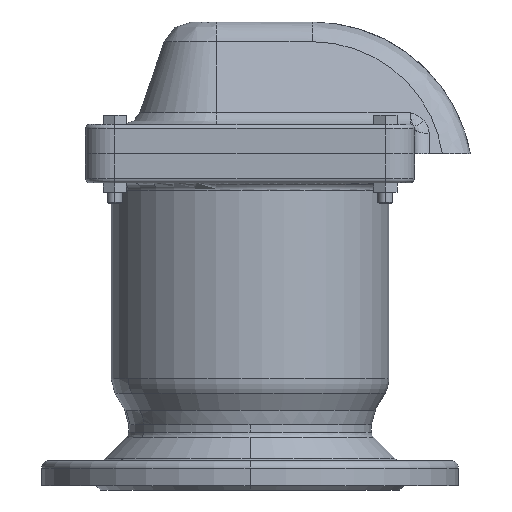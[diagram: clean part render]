
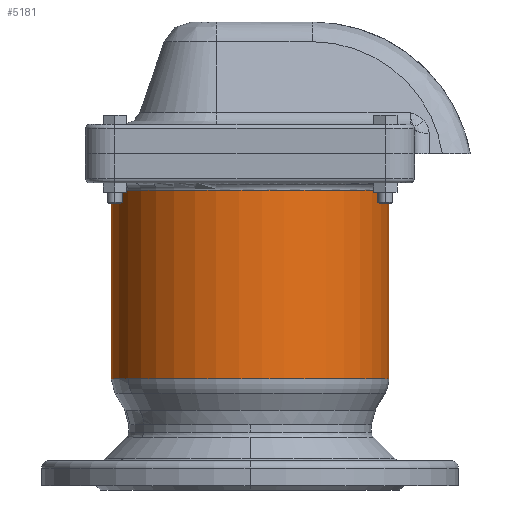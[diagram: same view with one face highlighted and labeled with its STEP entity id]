
A CAD part, left-side view. The second image highlights one B-rep face of the part: STEP entity #5181.
In plain terms, the highlighted cylindrical face has radius 95 mm (diameter 190 mm), a partial arc.
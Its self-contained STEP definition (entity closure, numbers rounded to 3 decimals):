
#961 = CARTESIAN_POINT ( 'NONE',  ( -45.545, 83.37, 76.144 ) ) ;
#1124 = ORIENTED_EDGE ( 'NONE', *, *, #15355, .F. ) ;
#1238 = EDGE_CURVE ( 'NONE', #2937, #16720, #6144, .T. ) ;
#1359 = EDGE_LOOP ( 'NONE', ( #6314, #1124, #14561, #16504, #16245, #9439 ) ) ;
#1471 = DIRECTION ( 'NONE',  ( 1., 0., 0. ) ) ;
#1669 = DIRECTION ( 'NONE',  ( 0., -1., 0. ) ) ;
#1975 = CARTESIAN_POINT ( 'NONE',  ( 0., -95., 76.144 ) ) ;
#2004 = AXIS2_PLACEMENT_3D ( 'NONE', #13319, #8307, #18785 ) ;
#2258 = CIRCLE ( 'NONE', #5261, 95. ) ;
#2321 = LINE ( 'NONE', #10535, #13799 ) ;
#2394 = AXIS2_PLACEMENT_3D ( 'NONE', #19383, #10400, #1471 ) ;
#2937 = VERTEX_POINT ( 'NONE', #13663 ) ;
#3714 = VECTOR ( 'NONE', #6486, 1000. ) ;
#3743 = FACE_OUTER_BOUND ( 'NONE', #1359, .T. ) ;
#3788 = VERTEX_POINT ( 'NONE', #6775 ) ;
#3990 = CARTESIAN_POINT ( 'NONE',  ( 0., 0., 205. ) ) ;
#4498 = EDGE_CURVE ( 'NONE', #9737, #2937, #6327, .T. ) ;
#4988 = CARTESIAN_POINT ( 'NONE',  ( 0., -95., 76.144 ) ) ;
#5181 = ADVANCED_FACE ( 'NONE', ( #3743 ), #15219, .T. ) ;
#5261 = AXIS2_PLACEMENT_3D ( 'NONE', #14493, #5504, #15982 ) ;
#5465 = DIRECTION ( 'NONE',  ( 1., 0., 0. ) ) ;
#5504 = DIRECTION ( 'NONE',  ( 0., 0., -1. ) ) ;
#6144 = CIRCLE ( 'NONE', #2004, 95. ) ;
#6314 = ORIENTED_EDGE ( 'NONE', *, *, #7581, .F. ) ;
#6327 = CIRCLE ( 'NONE', #11797, 95. ) ;
#6486 = DIRECTION ( 'NONE',  ( 0., 0., 1. ) ) ;
#6735 = CARTESIAN_POINT ( 'NONE',  ( 0., -95., 205. ) ) ;
#6775 = CARTESIAN_POINT ( 'NONE',  ( 0., 95., 76.144 ) ) ;
#7449 = CARTESIAN_POINT ( 'NONE',  ( 0., 95., 205. ) ) ;
#7581 = EDGE_CURVE ( 'NONE', #3788, #9737, #2321, .T. ) ;
#7687 = LINE ( 'NONE', #4988, #3714 ) ;
#8307 = DIRECTION ( 'NONE',  ( 0., 0., 1. ) ) ;
#8328 = EDGE_CURVE ( 'NONE', #13283, #16720, #7687, .T. ) ;
#9034 = AXIS2_PLACEMENT_3D ( 'NONE', #10609, #9092, #1669 ) ;
#9092 = DIRECTION ( 'NONE',  ( 0., 0., 1. ) ) ;
#9439 = ORIENTED_EDGE ( 'NONE', *, *, #4498, .F. ) ;
#9737 = VERTEX_POINT ( 'NONE', #7449 ) ;
#10106 = VERTEX_POINT ( 'NONE', #961 ) ;
#10400 = DIRECTION ( 'NONE',  ( 0., 0., -1. ) ) ;
#10535 = CARTESIAN_POINT ( 'NONE',  ( 0., 95., 76.144 ) ) ;
#10609 = CARTESIAN_POINT ( 'NONE',  ( 0., 0., 76.144 ) ) ;
#11797 = AXIS2_PLACEMENT_3D ( 'NONE', #3990, #14459, #5465 ) ;
#13283 = VERTEX_POINT ( 'NONE', #1975 ) ;
#13319 = CARTESIAN_POINT ( 'NONE',  ( 0., 0., 205. ) ) ;
#13613 = DIRECTION ( 'NONE',  ( 0., 0., 1. ) ) ;
#13663 = CARTESIAN_POINT ( 'NONE',  ( -45.545, 83.37, 205. ) ) ;
#13799 = VECTOR ( 'NONE', #13613, 1000. ) ;
#14459 = DIRECTION ( 'NONE',  ( 0., 0., 1. ) ) ;
#14493 = CARTESIAN_POINT ( 'NONE',  ( 0., 0., 76.144 ) ) ;
#14561 = ORIENTED_EDGE ( 'NONE', *, *, #16879, .F. ) ;
#15219 = CYLINDRICAL_SURFACE ( 'NONE', #9034, 95. ) ;
#15355 = EDGE_CURVE ( 'NONE', #10106, #3788, #18436, .T. ) ;
#15982 = DIRECTION ( 'NONE',  ( 1., 0., 0. ) ) ;
#16245 = ORIENTED_EDGE ( 'NONE', *, *, #1238, .F. ) ;
#16504 = ORIENTED_EDGE ( 'NONE', *, *, #8328, .T. ) ;
#16720 = VERTEX_POINT ( 'NONE', #6735 ) ;
#16879 = EDGE_CURVE ( 'NONE', #13283, #10106, #2258, .T. ) ;
#18436 = CIRCLE ( 'NONE', #2394, 95. ) ;
#18785 = DIRECTION ( 'NONE',  ( 1., 0., 0. ) ) ;
#19383 = CARTESIAN_POINT ( 'NONE',  ( 0., 0., 76.144 ) ) ;
